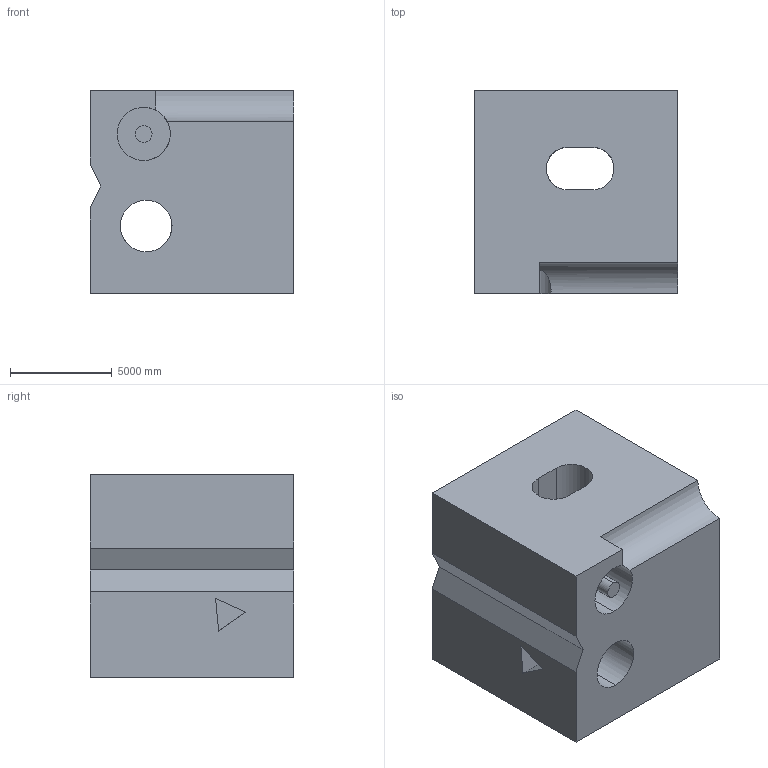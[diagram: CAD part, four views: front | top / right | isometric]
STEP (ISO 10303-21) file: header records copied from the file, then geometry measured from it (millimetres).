
FILE_DESCRIPTION (( 'STEP AP203' ), '1' );
FILE_NAME ('587.STEP', '2022-07-29T11:57:30', ( 'user' ), ( '' ), 'SwSTEP 2.0', 'SolidWorks 2021', '' );
FILE_SCHEMA (( 'CONFIG_CONTROL_DESIGN' ));
Length unit declared in the file: centimetre
Products named in the file (1): 587
Bounding box: 10000 x 10000 x 10000 mm (x, y, z)
Volume: 834211330822.5 mm3; surface area: 822192308.6 mm2
Topology: 1 solids, 1 shells, 31 faces, 87 edges, 58 vertices
Faces by surface type: plane 21, cylinder 10
Entity records: 1766 total; most frequent: CARTESIAN_POINT 872, ORIENTED_EDGE 174, DIRECTION 161, EDGE_CURVE 87, VERTEX_POINT 58, VECTOR 55, LINE 55, AXIS2_PLACEMENT_3D 53
